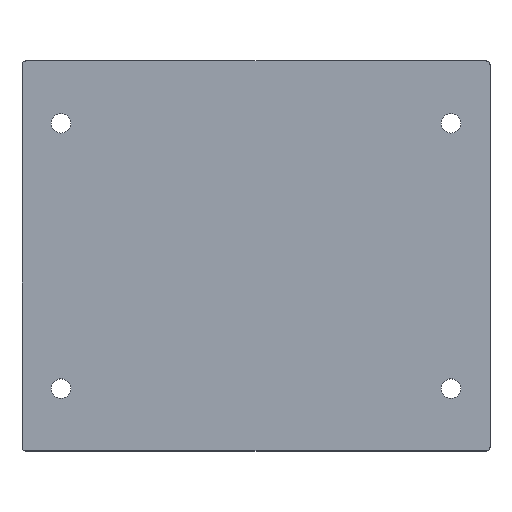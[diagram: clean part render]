
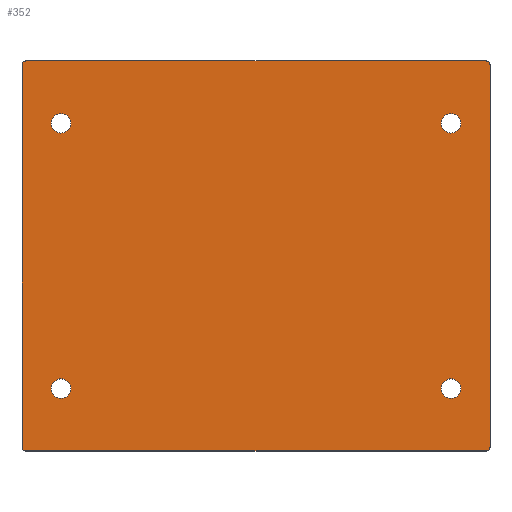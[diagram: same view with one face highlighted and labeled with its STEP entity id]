
A CAD part, top view. The second image highlights one B-rep face of the part: STEP entity #352.
In plain terms, the highlighted planar face has unit normal (0, 0, 1).
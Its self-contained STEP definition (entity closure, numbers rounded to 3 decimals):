
#96=CARTESIAN_POINT('',(1500.02,5573.95,147.501));
#97=VERTEX_POINT('',#96);
#98=CARTESIAN_POINT('',(1618.02,5573.95,147.501));
#99=VERTEX_POINT('',#98);
#100=CARTESIAN_POINT('',(1500.02,5573.95,147.501));
#101=DIRECTION('',(1.,0.,-0.));
#102=VECTOR('',#101,118.);
#103=LINE('',#100,#102);
#104=EDGE_CURVE('',#97,#99,#103,.T.);
#146=CARTESIAN_POINT('',(1499.02,5474.95,147.501));
#147=VERTEX_POINT('',#146);
#154=CARTESIAN_POINT('',(1499.02,5572.95,147.501));
#155=VERTEX_POINT('',#154);
#156=CARTESIAN_POINT('',(1499.02,5474.95,147.501));
#157=DIRECTION('',(0.,1.,0.));
#158=VECTOR('',#157,98.);
#159=LINE('',#156,#158);
#160=EDGE_CURVE('',#147,#155,#159,.T.);
#176=CARTESIAN_POINT('',(1618.02,5473.95,147.501));
#177=VERTEX_POINT('',#176);
#178=CARTESIAN_POINT('',(1500.02,5473.95,147.501));
#179=VERTEX_POINT('',#178);
#180=CARTESIAN_POINT('',(1618.02,5473.95,147.501));
#181=DIRECTION('',(-1.,-0.,0.));
#182=VECTOR('',#181,118.);
#183=LINE('',#180,#182);
#184=EDGE_CURVE('',#177,#179,#183,.T.);
#216=CARTESIAN_POINT('',(1619.02,5572.95,147.501));
#217=VERTEX_POINT('',#216);
#218=CARTESIAN_POINT('',(1619.02,5474.95,147.501));
#219=VERTEX_POINT('',#218);
#220=CARTESIAN_POINT('',(1619.02,5572.95,147.501));
#221=DIRECTION('',(0.,-1.,0.));
#222=VECTOR('',#221,98.);
#223=LINE('',#220,#222);
#224=EDGE_CURVE('',#217,#219,#223,.T.);
#251=CARTESIAN_POINT('',(2524.421,6414.8,147.501));
#252=DIRECTION('',(0.,0.,1.));
#253=DIRECTION('',(0.,1.,0.));
#254=AXIS2_PLACEMENT_3D('',#251,#252,#253);
#255=PLANE('',#254);
#256=CARTESIAN_POINT('',(1506.52,5557.95,147.501));
#257=VERTEX_POINT('',#256);
#258=CARTESIAN_POINT('',(1511.52,5557.95,147.501));
#259=VERTEX_POINT('',#258);
#260=CARTESIAN_POINT('',(1509.02,5557.95,147.501));
#261=DIRECTION('',(0.,0.,1.));
#262=DIRECTION('',(1.,0.,-0.));
#263=AXIS2_PLACEMENT_3D('',#260,#261,#262);
#264=CIRCLE('',#263,2.5);
#265=EDGE_CURVE('',#257,#259,#264,.T.);
#266=ORIENTED_EDGE('',*,*,#265,.F.);
#267=CARTESIAN_POINT('',(1509.02,5557.95,147.501));
#268=DIRECTION('',(0.,0.,1.));
#269=DIRECTION('',(1.,0.,-0.));
#270=AXIS2_PLACEMENT_3D('',#267,#268,#269);
#271=CIRCLE('',#270,2.5);
#272=EDGE_CURVE('',#259,#257,#271,.T.);
#273=ORIENTED_EDGE('',*,*,#272,.F.);
#274=EDGE_LOOP('',(#266,#273));
#275=FACE_BOUND('',#274,.T.);
#276=CARTESIAN_POINT('',(1506.52,5489.95,147.501));
#277=VERTEX_POINT('',#276);
#278=CARTESIAN_POINT('',(1511.52,5489.95,147.501));
#279=VERTEX_POINT('',#278);
#280=CARTESIAN_POINT('',(1509.02,5489.95,147.501));
#281=DIRECTION('',(0.,0.,1.));
#282=DIRECTION('',(1.,0.,-0.));
#283=AXIS2_PLACEMENT_3D('',#280,#281,#282);
#284=CIRCLE('',#283,2.5);
#285=EDGE_CURVE('',#277,#279,#284,.T.);
#286=ORIENTED_EDGE('',*,*,#285,.F.);
#287=CARTESIAN_POINT('',(1509.02,5489.95,147.501));
#288=DIRECTION('',(0.,0.,1.));
#289=DIRECTION('',(1.,0.,-0.));
#290=AXIS2_PLACEMENT_3D('',#287,#288,#289);
#291=CIRCLE('',#290,2.5);
#292=EDGE_CURVE('',#279,#277,#291,.T.);
#293=ORIENTED_EDGE('',*,*,#292,.F.);
#294=EDGE_LOOP('',(#286,#293));
#295=FACE_BOUND('',#294,.T.);
#296=CARTESIAN_POINT('',(1611.52,5557.95,147.501));
#297=VERTEX_POINT('',#296);
#298=CARTESIAN_POINT('',(1609.02,5557.95,147.501));
#299=DIRECTION('',(0.,0.,1.));
#300=DIRECTION('',(1.,0.,-0.));
#301=AXIS2_PLACEMENT_3D('',#298,#299,#300);
#302=CIRCLE('',#301,2.5);
#303=EDGE_CURVE('',#297,#297,#302,.T.);
#304=ORIENTED_EDGE('',*,*,#303,.F.);
#305=EDGE_LOOP('',(#304));
#306=FACE_BOUND('',#305,.T.);
#307=CARTESIAN_POINT('',(1611.52,5489.95,147.501));
#308=VERTEX_POINT('',#307);
#309=CARTESIAN_POINT('',(1609.02,5489.95,147.501));
#310=DIRECTION('',(0.,0.,1.));
#311=DIRECTION('',(1.,0.,-0.));
#312=AXIS2_PLACEMENT_3D('',#309,#310,#311);
#313=CIRCLE('',#312,2.5);
#314=EDGE_CURVE('',#308,#308,#313,.T.);
#315=ORIENTED_EDGE('',*,*,#314,.F.);
#316=EDGE_LOOP('',(#315));
#317=FACE_BOUND('',#316,.T.);
#318=ORIENTED_EDGE('',*,*,#160,.F.);
#319=CARTESIAN_POINT('',(1500.02,5474.95,147.501));
#320=DIRECTION('',(0.,0.,1.));
#321=DIRECTION('',(1.,0.,-0.));
#322=AXIS2_PLACEMENT_3D('',#319,#320,#321);
#323=CIRCLE('',#322,1.);
#324=EDGE_CURVE('',#147,#179,#323,.T.);
#325=ORIENTED_EDGE('',*,*,#324,.T.);
#326=ORIENTED_EDGE('',*,*,#184,.F.);
#327=CARTESIAN_POINT('',(1618.02,5474.95,147.501));
#328=DIRECTION('',(0.,0.,1.));
#329=DIRECTION('',(1.,0.,-0.));
#330=AXIS2_PLACEMENT_3D('',#327,#328,#329);
#331=CIRCLE('',#330,1.);
#332=EDGE_CURVE('',#177,#219,#331,.T.);
#333=ORIENTED_EDGE('',*,*,#332,.T.);
#334=ORIENTED_EDGE('',*,*,#224,.F.);
#335=CARTESIAN_POINT('',(1618.02,5572.95,147.501));
#336=DIRECTION('',(0.,0.,1.));
#337=DIRECTION('',(1.,0.,-0.));
#338=AXIS2_PLACEMENT_3D('',#335,#336,#337);
#339=CIRCLE('',#338,1.);
#340=EDGE_CURVE('',#217,#99,#339,.T.);
#341=ORIENTED_EDGE('',*,*,#340,.T.);
#342=ORIENTED_EDGE('',*,*,#104,.F.);
#343=CARTESIAN_POINT('',(1500.02,5572.95,147.501));
#344=DIRECTION('',(0.,0.,1.));
#345=DIRECTION('',(1.,0.,-0.));
#346=AXIS2_PLACEMENT_3D('',#343,#344,#345);
#347=CIRCLE('',#346,1.);
#348=EDGE_CURVE('',#97,#155,#347,.T.);
#349=ORIENTED_EDGE('',*,*,#348,.T.);
#350=EDGE_LOOP('',(#318,#325,#326,#333,#334,#341,#342,#349));
#351=FACE_BOUND('',#350,.T.);
#352=ADVANCED_FACE('',(#275,#295,#306,#317,#351),#255,.T.);
